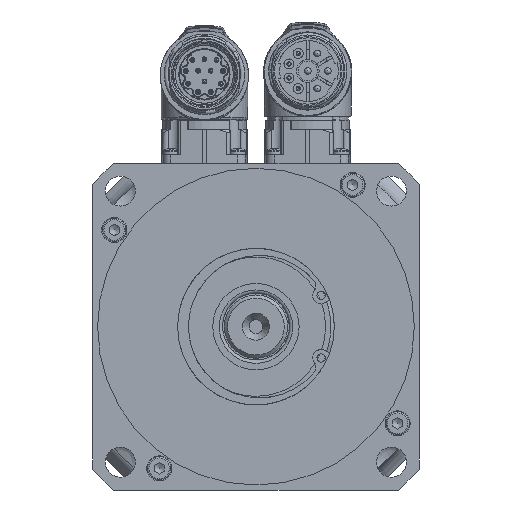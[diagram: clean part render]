
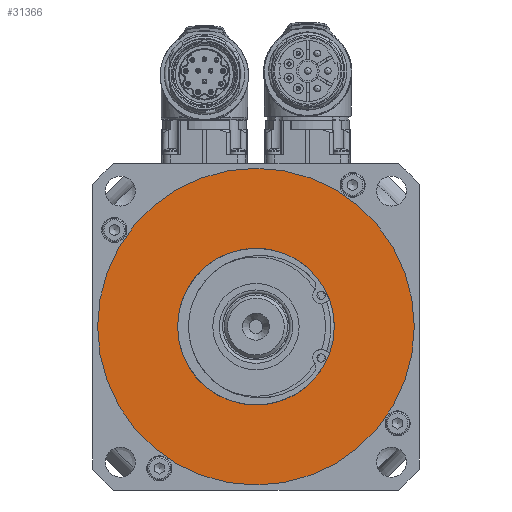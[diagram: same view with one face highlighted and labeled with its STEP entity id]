
A CAD part, left-side view. The second image highlights one B-rep face of the part: STEP entity #31366.
In plain terms, the highlighted planar face has unit normal (-1, 0, 0).
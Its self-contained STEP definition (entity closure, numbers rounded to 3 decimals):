
#645=FACE_BOUND('',#3964,.T.);
#1611=PLANE('',#33606);
#2166=FACE_OUTER_BOUND('',#3963,.T.);
#3963=EDGE_LOOP('',(#19662,#19663));
#3964=EDGE_LOOP('',(#19664));
#6236=CIRCLE('',#33607,47.5);
#6237=CIRCLE('',#33608,47.5);
#6238=CIRCLE('',#33609,23.5);
#11605=VERTEX_POINT('',#47268);
#11606=VERTEX_POINT('',#47269);
#11607=VERTEX_POINT('',#47272);
#14766=EDGE_CURVE('',#11605,#11606,#6236,.T.);
#14767=EDGE_CURVE('',#11606,#11605,#6237,.T.);
#14768=EDGE_CURVE('',#11607,#11607,#6238,.T.);
#19662=ORIENTED_EDGE('',*,*,#14766,.T.);
#19663=ORIENTED_EDGE('',*,*,#14767,.T.);
#19664=ORIENTED_EDGE('',*,*,#14768,.F.);
#31366=ADVANCED_FACE('',(#2166,#645),#1611,.F.);
#33606=AXIS2_PLACEMENT_3D('',#47267,#37755,#37756);
#33607=AXIS2_PLACEMENT_3D('',#47270,#37757,#37758);
#33608=AXIS2_PLACEMENT_3D('',#47271,#37759,#37760);
#33609=AXIS2_PLACEMENT_3D('',#47273,#37761,#37762);
#37755=DIRECTION('center_axis',(1.,0.,0.));
#37756=DIRECTION('ref_axis',(0.,0.,-1.));
#37757=DIRECTION('center_axis',(-1.,0.,0.));
#37758=DIRECTION('ref_axis',(0.,0.,1.));
#37759=DIRECTION('center_axis',(-1.,0.,0.));
#37760=DIRECTION('ref_axis',(0.,0.,1.));
#37761=DIRECTION('center_axis',(-1.,0.,0.));
#37762=DIRECTION('ref_axis',(0.,1.,0.));
#47267=CARTESIAN_POINT('Origin',(-37.394,47.5,0.));
#47268=CARTESIAN_POINT('',(-37.394,47.5,0.));
#47269=CARTESIAN_POINT('',(-37.394,-47.5,0.));
#47270=CARTESIAN_POINT('Origin',(-37.394,0.,
0.));
#47271=CARTESIAN_POINT('Origin',(-37.394,0.,
0.));
#47272=CARTESIAN_POINT('',(-37.394,-23.5,0.));
#47273=CARTESIAN_POINT('Origin',(-37.394,0.,
0.));
